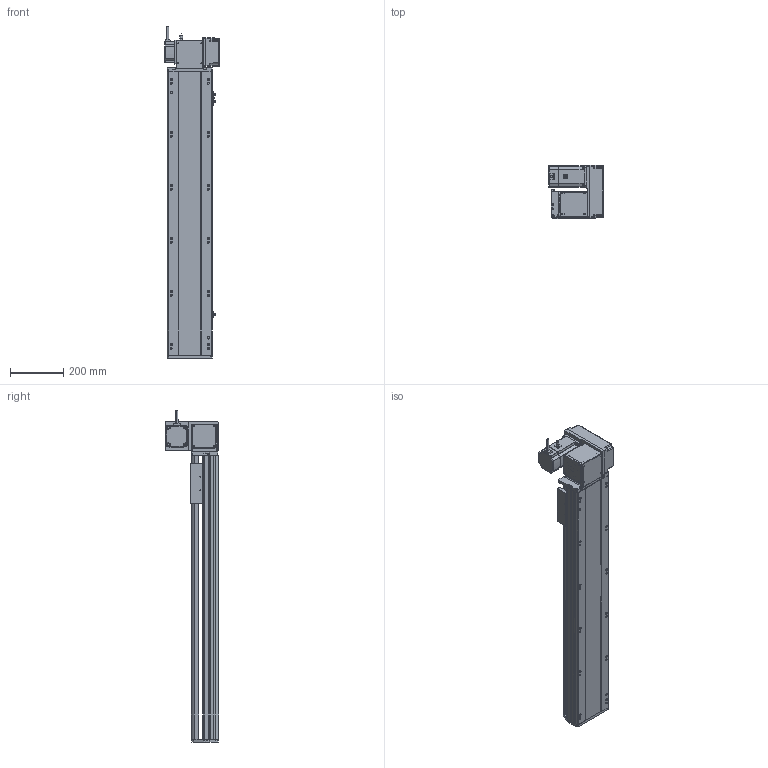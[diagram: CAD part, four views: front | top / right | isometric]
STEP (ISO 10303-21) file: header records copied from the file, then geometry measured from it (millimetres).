
FILE_DESCRIPTION (( 'STEP AP214' ), '1' );
FILE_NAME ('RTB17S-XX-800-RW-M75-C4.STEP', '2025-12-12T02:34:56', ( '' ), ( '' ), 'SwSTEP 2.0', 'SolidWorks 2018', '' );
FILE_SCHEMA (( 'AUTOMOTIVE_DESIGN' ));
Length unit declared in the file: millimetre
Products named in the file (15): RTB17S-L-004-賑釱^RTB17S-賑釱_RTB17S-XX-XX-RW-M75-C4; RMP17S-L-014-T20-P75--々湍釱^RTB17S-RW-々湍釱蚾饜-750W_RTB17S-XX-XX-RW-M75-C4; RTB22S-GY-017P^RTB17S-RW-々湍釱蚾饜-750W_RTB17S-XX-XX-RW-M75-C4; 750W萇儂^RTB17S-XX-XX-RW-M75-C4; RTH13-BL-012覜茼え俋离^RTB17S-賑釱_RTB17S-XX-XX-RW-M75-C4; EE672^RTB17S-XX-XX-RW-M75-C4; RTB17S-賑釱^RTB17S-XX-XX-RW-M75-C4; RTB17-R-011菁釱^RTB17S-XX-XX-RW-M75-C4; RTB17S-L-007奻裔^RTB17S-XX-XX-RW-M75-C4; RTB22S-GY-008-M75--萇儂啣^RTB17S-RW-々湍釱蚾饜-750W_RTB17S-XX-XX-RW-M75-C4; RTB17S-RW-々湍釱蚾饜-750W^RTB17S-XX-XX-RW-M75-C4; RTB22S-GY-005P^RTB17S-RW-々湍釱蚾饜-750W_RTB17S-XX-XX-RW-M75-C4; RTB17S-L-001-耜醱啣^RTB17S-XX-XX-RW-M75-C4; RTB22S-GY-018P^RTB17S-RW-々湍釱蚾饜-750W_RTB17S-XX-XX-RW-M75-C4; RTB17S-XX-800-RW-M75-C4
Assembly tree (17 placements, depth 3):
  RTB17S-XX-800-RW-M75-C4
    RTB17-R-011菁釱^RTB17S-XX-XX-RW-M75-C4
    EE672^RTB17S-XX-XX-RW-M75-C4  x3
    RTB17S-L-001-耜醱啣^RTB17S-XX-XX-RW-M75-C4
    RTB17S-賑釱^RTB17S-XX-XX-RW-M75-C4
      RTB17S-L-004-賑釱^RTB17S-賑釱_RTB17S-XX-XX-RW-M75-C4
      RTH13-BL-012覜茼え俋离^RTB17S-賑釱_RTB17S-XX-XX-RW-M75-C4
    RTB17S-L-007奻裔^RTB17S-XX-XX-RW-M75-C4
    750W萇儂^RTB17S-XX-XX-RW-M75-C4
    RTB17S-RW-々湍釱蚾饜-750W^RTB17S-XX-XX-RW-M75-C4
      RMP17S-L-014-T20-P75--々湍釱^RTB17S-RW-々湍釱蚾饜-750W_RTB17S-XX-XX-RW-M75-C4
      RTB22S-GY-005P^RTB17S-RW-々湍釱蚾饜-750W_RTB17S-XX-XX-RW-M75-C4
      RTB22S-GY-017P^RTB17S-RW-々湍釱蚾饜-750W_RTB17S-XX-XX-RW-M75-C4  x2
      RTB22S-GY-008-M75--萇儂啣^RTB17S-RW-々湍釱蚾饜-750W_RTB17S-XX-XX-RW-M75-C4
      RTB22S-GY-018P^RTB17S-RW-々湍釱蚾饜-750W_RTB17S-XX-XX-RW-M75-C4
Bounding box: 207.4 x 201.5 x 1252.2 mm (x, y, z)
Volume: 10953528.4 mm3; surface area: 1824353.9 mm2
Topology: 17 solids, 17 shells, 2073 faces, 5728 edges, 3698 vertices
Faces by surface type: plane 968, cylinder 689, bspline 294, cone 110, sphere 8, torus 4
Entity records: 57334 total; most frequent: CARTESIAN_POINT 16792, ORIENTED_EDGE 8300, DIRECTION 7772, EDGE_CURVE 4150, AXIS2_PLACEMENT_3D 2718, VERTEX_POINT 2702, LINE 2336, VECTOR 2336
